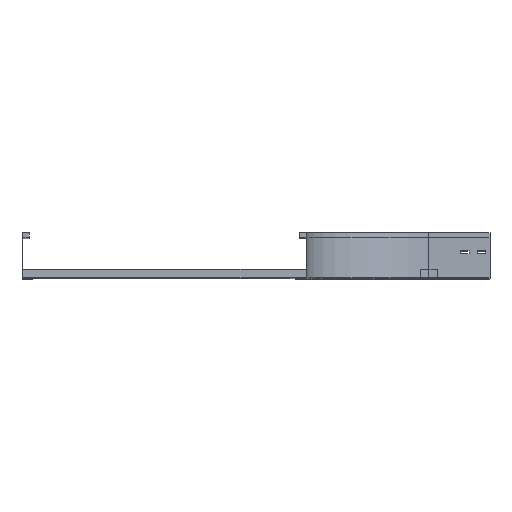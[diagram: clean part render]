
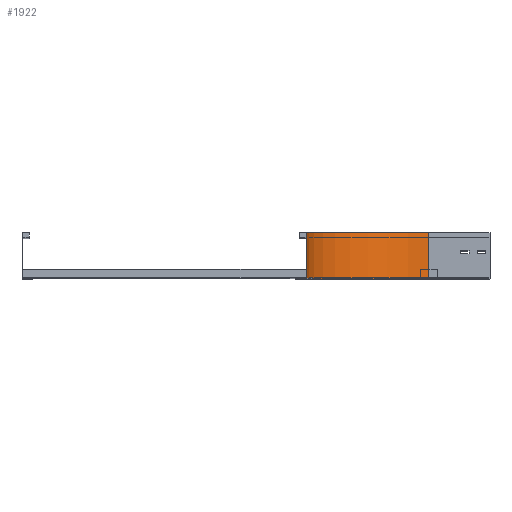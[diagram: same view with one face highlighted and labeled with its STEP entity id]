
A CAD part, top view. The second image highlights one B-rep face of the part: STEP entity #1922.
In plain terms, the highlighted cylindrical face has radius 300 mm (diameter 600 mm), a partial arc.
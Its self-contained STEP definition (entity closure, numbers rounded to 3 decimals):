
#134 = EDGE_CURVE ( 'NONE', #1850, #1133, #2465, .T. ) ;
#159 = AXIS2_PLACEMENT_3D ( 'NONE', #1338, #1659, #3156 ) ;
#178 = DIRECTION ( 'NONE',  ( 0., 0., -1. ) ) ;
#405 = VECTOR ( 'NONE', #610, 1000. ) ;
#470 = CARTESIAN_POINT ( 'NONE',  ( 300., 0., -450. ) ) ;
#515 = AXIS2_PLACEMENT_3D ( 'NONE', #3292, #3844, #2390 ) ;
#610 = DIRECTION ( 'NONE',  ( 0., 1., 0. ) ) ;
#639 = CYLINDRICAL_SURFACE ( 'NONE', #1709, 300. ) ;
#646 = CARTESIAN_POINT ( 'NONE',  ( 0., 0., -150. ) ) ;
#894 = VECTOR ( 'NONE', #1602, 1000. ) ;
#976 = CARTESIAN_POINT ( 'NONE',  ( 300., 0., -450. ) ) ;
#1066 = CARTESIAN_POINT ( 'NONE',  ( 300., 0., -150. ) ) ;
#1133 = VERTEX_POINT ( 'NONE', #976 ) ;
#1198 = CARTESIAN_POINT ( 'NONE',  ( 0., 0., -150. ) ) ;
#1215 = EDGE_CURVE ( 'NONE', #1133, #2021, #3101, .T. ) ;
#1303 = EDGE_LOOP ( 'NONE', ( #2394, #2776, #3124, #2634 ) ) ;
#1318 = CARTESIAN_POINT ( 'NONE',  ( 300., 112.5, -450. ) ) ;
#1338 = CARTESIAN_POINT ( 'NONE',  ( 300., 112.5, -150. ) ) ;
#1602 = DIRECTION ( 'NONE',  ( 0., 1., 0. ) ) ;
#1659 = DIRECTION ( 'NONE',  ( 0., -1., 0. ) ) ;
#1709 = AXIS2_PLACEMENT_3D ( 'NONE', #1066, #2869, #178 ) ;
#1850 = VERTEX_POINT ( 'NONE', #1198 ) ;
#1905 = CIRCLE ( 'NONE', #159, 300. ) ;
#1922 = ADVANCED_FACE ( 'NONE', ( #2127 ), #639, .F. ) ;
#1948 = EDGE_CURVE ( 'NONE', #3840, #2021, #1905, .T. ) ;
#2021 = VERTEX_POINT ( 'NONE', #1318 ) ;
#2127 = FACE_OUTER_BOUND ( 'NONE', #1303, .T. ) ;
#2325 = EDGE_CURVE ( 'NONE', #1850, #3840, #3609, .T. ) ;
#2390 = DIRECTION ( 'NONE',  ( -1., 0., 0. ) ) ;
#2394 = ORIENTED_EDGE ( 'NONE', *, *, #1948, .F. ) ;
#2465 = CIRCLE ( 'NONE', #515, 300. ) ;
#2634 = ORIENTED_EDGE ( 'NONE', *, *, #1215, .T. ) ;
#2776 = ORIENTED_EDGE ( 'NONE', *, *, #2325, .F. ) ;
#2869 = DIRECTION ( 'NONE',  ( 0., -1., 0. ) ) ;
#3101 = LINE ( 'NONE', #470, #894 ) ;
#3124 = ORIENTED_EDGE ( 'NONE', *, *, #134, .T. ) ;
#3156 = DIRECTION ( 'NONE',  ( -1., 0., 0. ) ) ;
#3292 = CARTESIAN_POINT ( 'NONE',  ( 300., 0., -150. ) ) ;
#3486 = CARTESIAN_POINT ( 'NONE',  ( 0., 112.5, -150. ) ) ;
#3609 = LINE ( 'NONE', #646, #405 ) ;
#3840 = VERTEX_POINT ( 'NONE', #3486 ) ;
#3844 = DIRECTION ( 'NONE',  ( 0., -1., 0. ) ) ;
